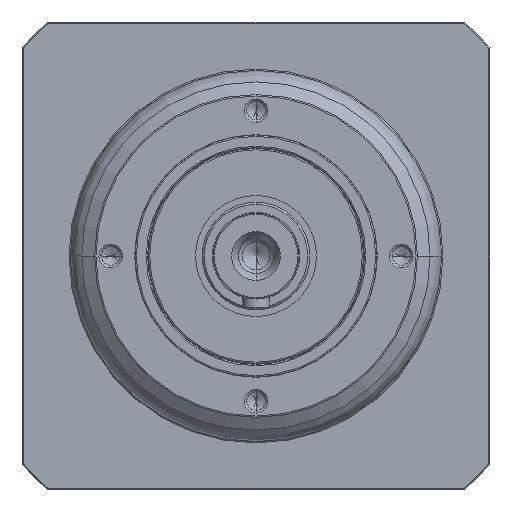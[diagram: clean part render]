
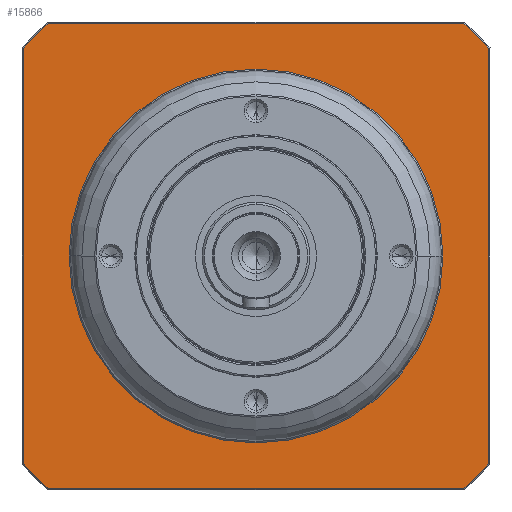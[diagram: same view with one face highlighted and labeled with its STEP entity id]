
A CAD part, left-side view. The second image highlights one B-rep face of the part: STEP entity #15866.
In plain terms, the highlighted planar face has unit normal (-1, 0, 0) as drawn and (0, 0, -1) by its records, which use the part's own axes.
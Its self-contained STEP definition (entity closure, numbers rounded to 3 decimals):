
#14752=CARTESIAN_POINT('',(0.,0.,
2.5));
#14753=DIRECTION('',(0.,0.,-1.));
#14754=DIRECTION('',(0.,-1.,0.));
#14755=AXIS2_PLACEMENT_3D('',#14752,#14753,#14754);
#14757=CARTESIAN_POINT('',(0.,0.,
2.5));
#14758=DIRECTION('',(0.,0.,-1.));
#14759=DIRECTION('',(0.,1.,0.));
#14760=AXIS2_PLACEMENT_3D('',#14757,#14758,#14759);
#14762=CARTESIAN_POINT('',(0.,0.,2.5));
#14763=DIRECTION('',(0.,0.,1.));
#14764=DIRECTION('',(-0.746,-0.666,0.));
#14765=AXIS2_PLACEMENT_3D('',#14762,#14763,#14764);
#14767=DIRECTION('',(1.,0.,0.));
#14768=VECTOR('',#14767,154.58);
#14769=CARTESIAN_POINT('',(-77.29,-86.5,
2.5));
#14770=LINE('',#14769,#14768);
#14771=CARTESIAN_POINT('',(0.,0.,2.5));
#14772=DIRECTION('',(0.,0.,1.));
#14773=DIRECTION('',(0.666,-0.746,0.));
#14774=AXIS2_PLACEMENT_3D('',#14771,#14772,#14773);
#14776=DIRECTION('',(0.,1.,0.));
#14777=VECTOR('',#14776,154.58);
#14778=CARTESIAN_POINT('',(86.5,-77.29,
2.5));
#14779=LINE('',#14778,#14777);
#14780=CARTESIAN_POINT('',(0.,0.,2.5));
#14781=DIRECTION('',(0.,0.,1.));
#14782=DIRECTION('',(0.746,0.666,0.));
#14783=AXIS2_PLACEMENT_3D('',#14780,#14781,#14782);
#14785=DIRECTION('',(-1.,0.,0.));
#14786=VECTOR('',#14785,154.58);
#14787=CARTESIAN_POINT('',(77.29,86.5,2.5));
#14788=LINE('',#14787,#14786);
#14789=CARTESIAN_POINT('',(0.,0.,2.5));
#14790=DIRECTION('',(0.,0.,1.));
#14791=DIRECTION('',(-0.666,0.746,0.));
#14792=AXIS2_PLACEMENT_3D('',#14789,#14790,#14791);
#14794=DIRECTION('',(0.,-1.,0.));
#14795=VECTOR('',#14794,154.58);
#14796=CARTESIAN_POINT('',(-86.5,77.29,
2.5));
#14797=LINE('',#14796,#14795);
#15515=CARTESIAN_POINT('',(0.,-69.5,2.5));
#15516=CARTESIAN_POINT('',(0.,69.5,
2.5));
#15517=VERTEX_POINT('',#15515);
#15518=VERTEX_POINT('',#15516);
#15619=CARTESIAN_POINT('',(-86.5,-77.29,2.5));
#15620=CARTESIAN_POINT('',(-77.29,-86.5,2.5));
#15621=VERTEX_POINT('',#15619);
#15622=VERTEX_POINT('',#15620);
#15627=CARTESIAN_POINT('',(77.29,-86.5,
2.5));
#15628=VERTEX_POINT('',#15627);
#15631=CARTESIAN_POINT('',(86.5,-77.29,2.5));
#15632=VERTEX_POINT('',#15631);
#15635=CARTESIAN_POINT('',(86.5,77.29,2.5));
#15636=VERTEX_POINT('',#15635);
#15639=CARTESIAN_POINT('',(77.29,86.5,2.5));
#15640=VERTEX_POINT('',#15639);
#15643=CARTESIAN_POINT('',(-77.29,86.5,
2.5));
#15644=VERTEX_POINT('',#15643);
#15649=CARTESIAN_POINT('',(-86.5,77.29,2.5));
#15650=VERTEX_POINT('',#15649);
#15838=CARTESIAN_POINT('',(0.,0.,2.5));
#15839=DIRECTION('',(0.,0.,1.));
#15840=DIRECTION('',(0.,1.,0.));
#15841=AXIS2_PLACEMENT_3D('',#15838,#15839,#15840);
#15842=PLANE('',#15841);
#15844=ORIENTED_EDGE('',*,*,#15843,.T.);
#15846=ORIENTED_EDGE('',*,*,#15845,.T.);
#15848=ORIENTED_EDGE('',*,*,#15847,.T.);
#15850=ORIENTED_EDGE('',*,*,#15849,.T.);
#15852=ORIENTED_EDGE('',*,*,#15851,.T.);
#15854=ORIENTED_EDGE('',*,*,#15853,.T.);
#15856=ORIENTED_EDGE('',*,*,#15855,.T.);
#15858=ORIENTED_EDGE('',*,*,#15857,.T.);
#15859=EDGE_LOOP('',(#15844,#15846,#15848,#15850,#15852,#15854,#15856,#15858));
#15860=FACE_OUTER_BOUND('',#15859,.F.);
#15862=ORIENTED_EDGE('',*,*,#15861,.T.);
#15863=ORIENTED_EDGE('',*,*,#15828,.T.);
#15864=EDGE_LOOP('',(#15862,#15863));
#15865=FACE_BOUND('',#15864,.F.);
#15866=ADVANCED_FACE('',(#15860,#15865),#15842,.F.);
#14756=CIRCLE('',#14755,69.5);
#14761=CIRCLE('',#14760,69.5);
#14766=CIRCLE('',#14765,116.);
#14775=CIRCLE('',#14774,116.);
#14784=CIRCLE('',#14783,116.);
#14793=CIRCLE('',#14792,116.);
#15828=EDGE_CURVE('',#15518,#15517,#14761,.T.);
#15843=EDGE_CURVE('',#15621,#15622,#14766,.T.);
#15845=EDGE_CURVE('',#15622,#15628,#14770,.T.);
#15847=EDGE_CURVE('',#15628,#15632,#14775,.T.);
#15849=EDGE_CURVE('',#15632,#15636,#14779,.T.);
#15851=EDGE_CURVE('',#15636,#15640,#14784,.T.);
#15853=EDGE_CURVE('',#15640,#15644,#14788,.T.);
#15855=EDGE_CURVE('',#15644,#15650,#14793,.T.);
#15857=EDGE_CURVE('',#15650,#15621,#14797,.T.);
#15861=EDGE_CURVE('',#15517,#15518,#14756,.T.);
